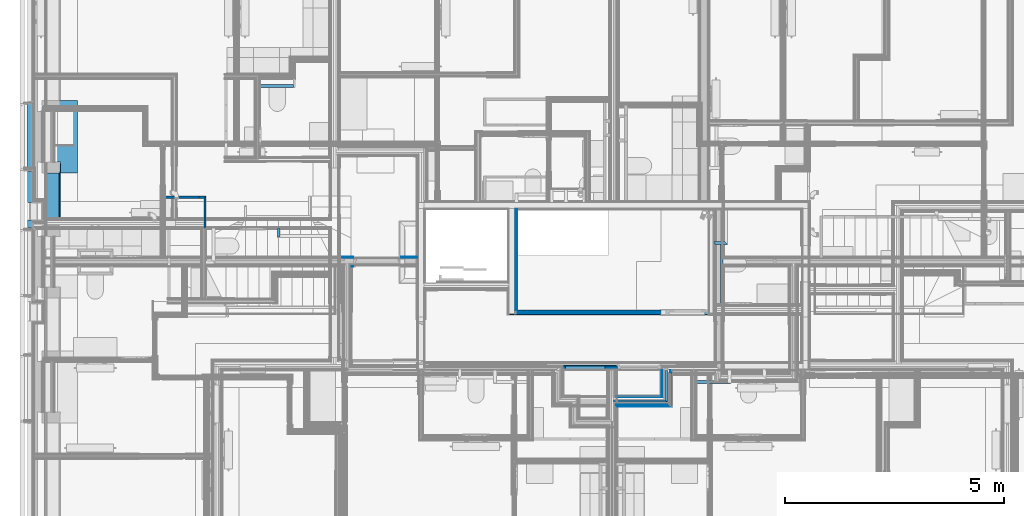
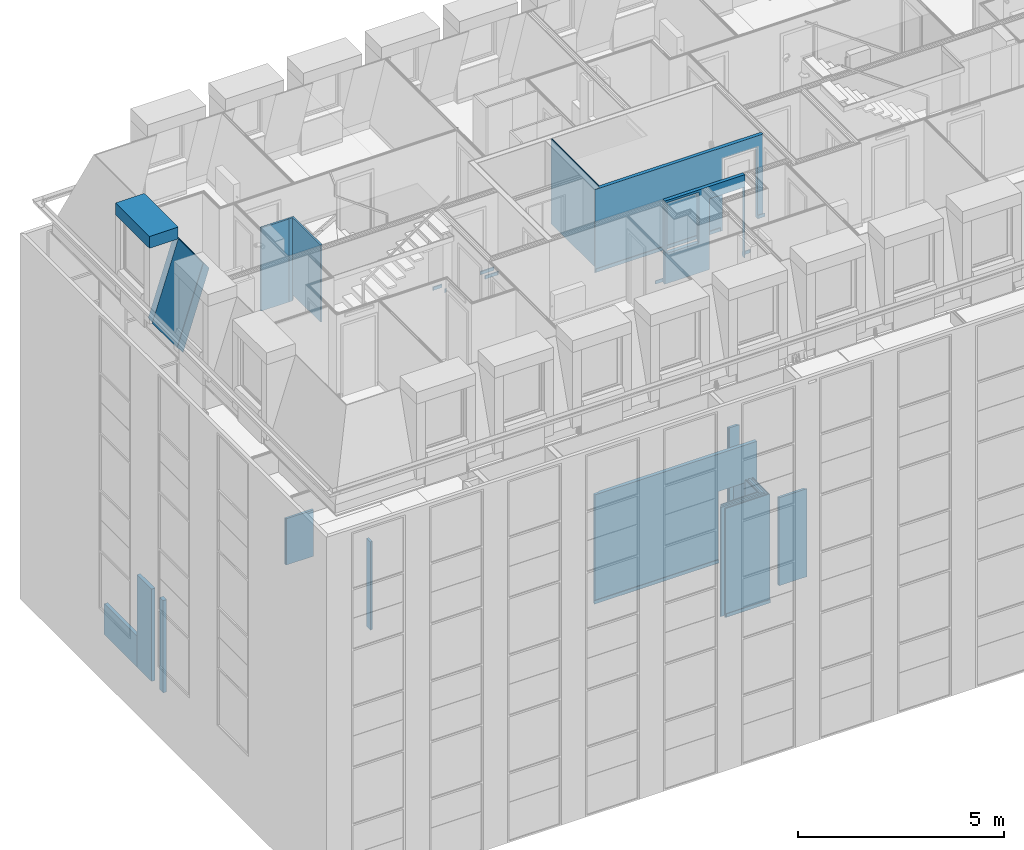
# One storey, part 3 of 169: 32 walls, 6 openings.
"""IFC2X3 building model written with IfcOpenShell, lengths in metres."""

from ifc_helpers import new_model, entity, si_unit, converted_unit, derived_unit, money_unit, direction, frame, frame_2d, origin_with_axes, place, context, subcontext, project, spatial, polyline, rectangle, outline, extrude, clip, bounded_halfspace, material, layer, layer_set, layer_usage, type_object, element, save


model = new_model("IFC2X3")

# Units and contexts
model_context = context("Model", 3, precision=1e-05, world=origin_with_axes(), true_north=direction((0.0, 1.0)))
body_context = subcontext(model_context, "Body", "Model", "MODEL_VIEW", scale=1.0)
ifc_project = project(units=[si_unit("LENGTHUNIT", "METRE"), si_unit("AREAUNIT", "SQUARE_METRE"), si_unit("VOLUMEUNIT", "CUBIC_METRE"), si_unit("ABSORBEDDOSEUNIT", "GRAY"), si_unit("AMOUNTOFSUBSTANCEUNIT", "MOLE"), si_unit("DOSEEQUIVALENTUNIT", "SIEVERT"), si_unit("ELECTRICCAPACITANCEUNIT", "FARAD"), si_unit("ELECTRICCHARGEUNIT", "COULOMB"), si_unit("ELECTRICCONDUCTANCEUNIT", "SIEMENS"), si_unit("ELECTRICCURRENTUNIT", "AMPERE"), si_unit("ELECTRICRESISTANCEUNIT", "OHM"), si_unit("ELECTRICVOLTAGEUNIT", "VOLT"), si_unit("ENERGYUNIT", "JOULE"), si_unit("FORCEUNIT", "NEWTON"), si_unit("FREQUENCYUNIT", "HERTZ"), si_unit("ILLUMINANCEUNIT", "LUX"), si_unit("INDUCTANCEUNIT", "HENRY"), si_unit("LUMINOUSFLUXUNIT", "LUMEN"), si_unit("LUMINOUSINTENSITYUNIT", "CANDELA"), si_unit("MAGNETICFLUXDENSITYUNIT", "TESLA"), si_unit("MAGNETICFLUXUNIT", "WEBER"), si_unit("MASSUNIT", "GRAM"), converted_unit("PLANEANGLEUNIT", "degree", entity("IfcReal", 0.0174532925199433), si_unit("PLANEANGLEUNIT", "RADIAN"), dimensions=[0, 0, 0, 0, 0, 0, 0]), si_unit("POWERUNIT", "WATT"), si_unit("PRESSUREUNIT", "PASCAL"), si_unit("RADIOACTIVITYUNIT", "BECQUEREL"), si_unit("SOLIDANGLEUNIT", "STERADIAN"), si_unit("THERMODYNAMICTEMPERATUREUNIT", "KELVIN"), si_unit("TIMEUNIT", "SECOND"), derived_unit("ACCELERATIONUNIT", [(si_unit("LENGTHUNIT", "METRE"), 1), (si_unit("TIMEUNIT", "SECOND"), -2)]), derived_unit("ANGULARVELOCITYUNIT", [(converted_unit("PLANEANGLEUNIT", "degree", entity("IfcReal", 0.0174532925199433), si_unit("PLANEANGLEUNIT", "RADIAN"), dimensions=[0, 0, 0, 0, 0, 0, 0]), 1), (si_unit("TIMEUNIT", "SECOND"), -1)]), derived_unit("CURVATUREUNIT", [(converted_unit("PLANEANGLEUNIT", "degree", entity("IfcReal", 0.0174532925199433), si_unit("PLANEANGLEUNIT", "RADIAN"), dimensions=[0, 0, 0, 0, 0, 0, 0]), 1), (si_unit("LENGTHUNIT", "METRE"), -1)]), derived_unit("DYNAMICVISCOSITYUNIT", [(si_unit("PRESSUREUNIT", "PASCAL"), 1), (si_unit("TIMEUNIT", "SECOND"), 1)]), derived_unit("HEATFLUXDENSITYUNIT", [(si_unit("POWERUNIT", "WATT"), 1), (si_unit("LENGTHUNIT", "METRE"), -2)]), derived_unit("HEATINGVALUEUNIT", [(si_unit("ENERGYUNIT", "JOULE"), 1), (si_unit("MASSUNIT", "GRAM"), -1)]), derived_unit("INTEGERCOUNTRATEUNIT", [(si_unit("TIMEUNIT", "SECOND"), -1)]), derived_unit("IONCONCENTRATIONUNIT", [(si_unit("MASSUNIT", "GRAM"), 1), (si_unit("VOLUMEUNIT", "CUBIC_METRE"), -1)]), derived_unit("ISOTHERMALMOISTURECAPACITYUNIT", [(si_unit("VOLUMEUNIT", "CUBIC_METRE"), 1), (si_unit("MASSUNIT", "GRAM"), -1)]), derived_unit("KINEMATICVISCOSITYUNIT", [(si_unit("AREAUNIT", "SQUARE_METRE"), 1), (si_unit("TIMEUNIT", "SECOND"), -1)]), derived_unit("LINEARFORCEUNIT", [(si_unit("FORCEUNIT", "NEWTON"), 1), (si_unit("LENGTHUNIT", "METRE"), -1)]), derived_unit("LINEARMOMENTUNIT", [(si_unit("FORCEUNIT", "NEWTON"), 1), (si_unit("LENGTHUNIT", "METRE"), -1)]), derived_unit("LINEARSTIFFNESSUNIT", [(si_unit("FORCEUNIT", "NEWTON"), 1), (si_unit("LENGTHUNIT", "METRE"), -1)]), derived_unit("LINEARVELOCITYUNIT", [(si_unit("LENGTHUNIT", "METRE"), 1), (si_unit("TIMEUNIT", "SECOND"), -1)]), derived_unit("LUMINOUSINTENSITYDISTRIBUTIONUNIT", [(si_unit("LUMINOUSINTENSITYUNIT", "CANDELA"), 1), (si_unit("LUMINOUSFLUXUNIT", "LUMEN"), -1)]), derived_unit("MASSDENSITYUNIT", [(si_unit("MASSUNIT", "GRAM"), 1), (si_unit("VOLUMEUNIT", "CUBIC_METRE"), -1)]), derived_unit("MASSFLOWRATEUNIT", [(si_unit("MASSUNIT", "GRAM"), 1), (si_unit("TIMEUNIT", "SECOND"), -1)]), derived_unit("MASSPERLENGTHUNIT", [(si_unit("MASSUNIT", "GRAM"), 1), (si_unit("LENGTHUNIT", "METRE"), -1)]), derived_unit("MODULUSOFELASTICITYUNIT", [(si_unit("FORCEUNIT", "NEWTON"), 1), (si_unit("AREAUNIT", "SQUARE_METRE"), -1)]), derived_unit("MODULUSOFLINEARSUBGRADEREACTIONUNIT", [(si_unit("FORCEUNIT", "NEWTON"), 1), (si_unit("LENGTHUNIT", "METRE"), -2)]), derived_unit("MODULUSOFROTATIONALSUBGRADEREACTIONUNIT", [(si_unit("FORCEUNIT", "NEWTON"), 1), (si_unit("LENGTHUNIT", "METRE"), 1)]), derived_unit("MODULUSOFSUBGRADEREACTIONUNIT", [(si_unit("FORCEUNIT", "NEWTON"), 1), (si_unit("VOLUMEUNIT", "CUBIC_METRE"), -1)]), derived_unit("MOISTUREDIFFUSIVITYUNIT", [(si_unit("VOLUMEUNIT", "CUBIC_METRE"), 1), (si_unit("TIMEUNIT", "SECOND"), -1)]), derived_unit("MOLECULARWEIGHTUNIT", [(si_unit("MASSUNIT", "GRAM"), 1), (si_unit("AMOUNTOFSUBSTANCEUNIT", "MOLE"), -1)]), derived_unit("PLANARFORCEUNIT", [(si_unit("FORCEUNIT", "NEWTON"), 1), (si_unit("LENGTHUNIT", "METRE"), -2)]), derived_unit("ROTATIONALFREQUENCYUNIT", [(si_unit("TIMEUNIT", "SECOND"), -1)]), derived_unit("ROTATIONALMASSUNIT", [(si_unit("MASSUNIT", "GRAM"), 1), (si_unit("LENGTHUNIT", "METRE"), 2)]), derived_unit("ROTATIONALSTIFFNESSUNIT", [(si_unit("FORCEUNIT", "NEWTON"), 1), (si_unit("LENGTHUNIT", "METRE"), 1), (converted_unit("PLANEANGLEUNIT", "degree", entity("IfcReal", 0.0174532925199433), si_unit("PLANEANGLEUNIT", "RADIAN"), dimensions=[0, 0, 0, 0, 0, 0, 0]), -1)]), derived_unit("SECTIONAREAINTEGRALUNIT", [(si_unit("LENGTHUNIT", "METRE"), 5)]), derived_unit("SECTIONMODULUSUNIT", [(si_unit("LENGTHUNIT", "METRE"), 3)]), derived_unit("SHEARMODULUSUNIT", [(si_unit("FORCEUNIT", "NEWTON"), 1), (si_unit("AREAUNIT", "SQUARE_METRE"), -1)]), derived_unit("SOUNDPOWERUNIT", [(si_unit("ENERGYUNIT", "JOULE"), 1), (si_unit("TIMEUNIT", "SECOND"), -1)]), derived_unit("SPECIFICHEATCAPACITYUNIT", [(si_unit("FORCEUNIT", "NEWTON"), 1), (si_unit("MASSUNIT", "GRAM"), -1), (si_unit("THERMODYNAMICTEMPERATUREUNIT", "KELVIN"), -1)]), derived_unit("TEMPERATUREGRADIENTUNIT", [(si_unit("THERMODYNAMICTEMPERATUREUNIT", "KELVIN"), 1), (si_unit("LENGTHUNIT", "METRE"), -1)]), derived_unit("THERMALADMITTANCEUNIT", [(si_unit("POWERUNIT", "WATT"), 1), (si_unit("AREAUNIT", "SQUARE_METRE"), -1), (si_unit("THERMODYNAMICTEMPERATUREUNIT", "KELVIN"), -1)]), derived_unit("THERMALCONDUCTANCEUNIT", [(si_unit("POWERUNIT", "WATT"), 1), (si_unit("LENGTHUNIT", "METRE"), -1), (si_unit("THERMODYNAMICTEMPERATUREUNIT", "KELVIN"), -1)]), derived_unit("THERMALEXPANSIONCOEFFICIENTUNIT", [(si_unit("THERMODYNAMICTEMPERATUREUNIT", "KELVIN"), -1)]), derived_unit("THERMALRESISTANCEUNIT", [(si_unit("AREAUNIT", "SQUARE_METRE"), 1), (si_unit("POWERUNIT", "WATT"), -1)]), derived_unit("THERMALTRANSMITTANCEUNIT", [(si_unit("POWERUNIT", "WATT"), 1), (si_unit("AREAUNIT", "SQUARE_METRE"), -1), (si_unit("THERMODYNAMICTEMPERATUREUNIT", "KELVIN"), -1)]), derived_unit("TORQUEUNIT", [(si_unit("FORCEUNIT", "NEWTON"), 1), (si_unit("LENGTHUNIT", "METRE"), 1)]), derived_unit("VAPORPERMEABILITYUNIT", [(si_unit("MASSUNIT", "GRAM"), 1), (si_unit("TIMEUNIT", "SECOND"), -1)]), derived_unit("VOLUMETRICFLOWRATEUNIT", [(si_unit("VOLUMEUNIT", "CUBIC_METRE"), 1), (si_unit("TIMEUNIT", "SECOND"), -1)]), derived_unit("WARPINGCONSTANTUNIT", [(si_unit("LENGTHUNIT", "METRE"), 6)]), derived_unit("WARPINGMOMENTUNIT", [(si_unit("FORCEUNIT", "NEWTON"), 1), (si_unit("LENGTHUNIT", "METRE"), 2)]), money_unit("GBP")], contexts=[model_context])

# Site, building, storey
site_placement = place(None, origin_with_axes())
site = spatial("IfcSite", under=ifc_project, at=site_placement, Name="Site", CompositionType="ELEMENT")
building_placement = place(site_placement, origin_with_axes())
building = spatial("IfcBuilding", under=site, at=building_placement, Name="Building01", CompositionType="ELEMENT")
storey_placement = place(building_placement, frame((0.0, 0.0, 5.15), z_axis=(0.0, 0.0, 1.0), x_axis=(1.0, 0.0, 0.0)))
storey = spatial("IfcBuildingStorey", under=building, at=storey_placement, Name="1F", CompositionType="ELEMENT", Elevation=5.15)

# Walls
ifc_material_1 = material(Name="A_BSUK_WallsExternal_Block")
ifc_layer_1 = layer(ifc_material_1, 0.1, ventilated=False)
ifc_layer_set_1 = layer_set([ifc_layer_1])
ifc_layer_usage_1 = layer_usage(ifc_layer_set_1, "AXIS2", "POSITIVE", 0.0)
wall_type_1 = type_object("IfcWallType", Name="A-Walls-ExternalBlock", PredefinedType="NOTDEFINED")
wall_1_placement = place(storey_placement, frame((0.17, 8.4, 0.0), z_axis=(0.0, 0.0, 1.0), x_axis=(0.0, -1.0, 0.0)))
element("IfcWallStandardCase", 1, at=wall_1_placement, inside=storey, type_object=wall_type_1, material=ifc_layer_usage_1, Name="A-Walls-ExternalBlock", ObjectType="A-Walls-ExternalBlock", context=body_context, shape_type="SweptSolid", body=[
    extrude(rectangle(XDim=0.167, YDim=0.1, at=frame_2d((0.0835, 0.05), x_axis=(-1.0, 0.0))), origin_with_axes(), (0.0, 0.0, 1.0), 2.74),
])
wall_2_placement = place(storey_placement, frame((0.17, 11.103, 0.0), z_axis=(0.0, 0.0, 1.0), x_axis=(0.0, -1.0, 0.0)))
element("IfcWallStandardCase", 2, at=wall_2_placement, inside=storey, type_object=wall_type_1, material=ifc_layer_usage_1, Name="A-Walls-ExternalBlock", ObjectType="A-Walls-ExternalBlock", context=body_context, shape_type="SweptSolid", body=[
    extrude(rectangle(XDim=1.58882, YDim=0.1, at=frame_2d((0.79441, 0.05), x_axis=(1.0, 0.0))), origin_with_axes(), (0.0, 0.0, 1.0), 0.915),
])
wall_3_placement = place(storey_placement, frame((0.17, 9.51418, 0.0), z_axis=(0.0, 0.0, 1.0), x_axis=(0.0, -1.0, 0.0)))
element("IfcWallStandardCase", 3, at=wall_3_placement, inside=storey, type_object=wall_type_1, material=ifc_layer_usage_1, Name="A-Walls-ExternalBlock", ObjectType="A-Walls-ExternalBlock", context=body_context, shape_type="SweptSolid", body=[
    extrude(rectangle(XDim=0.1, YDim=0.714171, at=frame_2d((0.357085, 0.05), x_axis=(0.0, -1.0))), origin_with_axes(), (0.0, 0.0, 1.0), 2.74),
])
ifc_material_2 = material(Name="A_BSUK_WallsInternal")
ifc_layer_2 = layer(ifc_material_2, 0.05, ventilated=False)
ifc_layer_set_2 = layer_set([ifc_layer_2])
ifc_layer_usage_2 = layer_usage(ifc_layer_set_2, "AXIS2", "POSITIVE", 0.0)
wall_type_2 = type_object("IfcWallType", Name="A-Walls-Internal", PredefinedType="NOTDEFINED")
wall_4_placement = place(storey_placement, frame((4.24, 7.549939, 10.01), z_axis=(0.0, 0.0, 1.0), x_axis=(0.0, 1.0, 0.0)))
element("IfcWallStandardCase", 4, at=wall_4_placement, inside=storey, type_object=wall_type_2, material=ifc_layer_usage_2, Name="A-Walls-Internal", ObjectType="A-Walls-Internal", context=body_context, shape_type="SweptSolid", body=[
    extrude(outline(polyline([(1.35, 0.05), (0.0, 0.05), (0.0, 0.0), (1.4, 0.0), (1.35, 0.05)])), origin_with_axes(), (0.0, 0.0, 1.0), 2.288),
])
wall_5_placement = place(storey_placement, frame((4.24, 8.949939, 9.83), z_axis=(0.0, 0.0, 1.0), x_axis=(-1.0, 0.0, 0.0)))
element("IfcWallStandardCase", 5, at=wall_5_placement, inside=storey, type_object=wall_type_2, material=ifc_layer_usage_2, Name="A-Walls-Internal", ObjectType="A-Walls-Internal", context=body_context, shape_type="SweptSolid", body=[
    extrude(outline(polyline([(0.05, 0.05), (0.0, 0.0), (0.155, 0.0), (0.155, 0.05), (0.05, 0.05)])), origin_with_axes(), (0.0, 0.0, 1.0), 2.468),
])
wall_6_placement = place(storey_placement, frame((4.085, 8.949939, 9.83), z_axis=(0.0, 0.0, 1.0), x_axis=(-1.0, 0.0, 0.0)))
element("IfcWallStandardCase", 6, at=wall_6_placement, inside=storey, type_object=wall_type_2, material=ifc_layer_usage_2, Name="A-Walls-Internal", ObjectType="A-Walls-Internal", context=body_context, shape_type="SweptSolid", body=[
    extrude(rectangle(XDim=0.785, YDim=0.05, at=frame_2d((0.3925, 0.025), x_axis=(1.0, 0.0))), origin_with_axes(), (0.0, 0.0, 1.0), 2.468),
])
ifc_layer_3 = layer(ifc_material_2, 0.015, ventilated=False)
ifc_layer_set_3 = layer_set([ifc_layer_3])
ifc_layer_usage_3 = layer_usage(ifc_layer_set_3, "AXIS2", "POSITIVE", 0.0)
for number, where, z_axis, x_axis, name in (
    (7, (11.3, 8.65, 9.78), (0.0, 0.0, 1.0), (0.0, -1.0, 0.0), "A-Walls-Internal"),
    (8, (11.315, 8.65, 9.78), (0.0, 0.0, 1.0), (0.0, -1.0, 0.0), "A-Walls-Internal"),
):
    element("IfcWallStandardCase", number, at=place(storey_placement, frame(where, z_axis=z_axis, x_axis=x_axis)), inside=storey, type_object=wall_type_2, material=ifc_layer_usage_3, Name=name, ObjectType="A-Walls-Internal", context=body_context, shape_type="SweptSolid", body=[
        extrude(rectangle(XDim=2.3, YDim=0.015, at=frame_2d((1.15, 0.0075), x_axis=(-1.0, 0.0))), origin_with_axes(), (0.0, 0.0, 1.0), 2.518),
    ])
ifc_material_3 = material(Name="A_BSUK_Walls_Timber")
ifc_layer_4 = layer(ifc_material_3, 0.015, ventilated=False)
ifc_material_4 = material(Name="A_BSUK_OpeningsClearance")
ifc_layer_5 = layer(ifc_material_4, 0.05, ventilated=False)
ifc_layer_set_4 = layer_set([ifc_layer_4, ifc_layer_5])
ifc_layer_usage_4 = layer_usage(ifc_layer_set_4, "AXIS2", "POSITIVE", 0.0)
wall_type_3 = type_object("IfcWallType", Name="SHE_A-Walls_Type05c_PreWallShell_65mm", PredefinedType="NOTDEFINED")
wall_7_placement = place(storey_placement, frame((15.815, 7.915, 0.0), z_axis=(0.0, 0.0, 1.0), x_axis=(1.0, 0.0, 0.0)))
element("IfcWallStandardCase", 9, at=wall_7_placement, inside=storey, type_object=wall_type_3, material=ifc_layer_usage_4, Name="5C", ObjectType="SHE_A-Walls_Type05c_PreWallShell_65mm", context=body_context, shape_type="SweptSolid", body=[
    extrude(outline(polyline([(0.25, 0.0), (0.0, 0.0), (0.0, -0.05), (0.03, -0.05), (0.03, -0.065), (0.315, -0.065), (0.25, 0.0)])), origin_with_axes(), (0.0, 0.0, 1.0), 2.615),
])
wall_8_placement = place(storey_placement, frame((15.965, 6.59, 0.0), z_axis=(0.0, 0.0, 1.0), x_axis=(0.0, 1.0, 0.0)))
element("IfcWallStandardCase", 10, at=wall_8_placement, inside=storey, type_object=wall_type_3, material=ifc_layer_usage_4, Name="5C", ObjectType="SHE_A-Walls_Type05c_PreWallShell_65mm", context=body_context, shape_type="SweptSolid", body=[
    extrude(outline(polyline([(1.275, -0.05), (1.275, 0.0), (-0.103, 0.0), (-0.103, -0.05), (-0.115, -0.05), (-0.115, -0.065), (1.325, -0.065), (1.325, -0.05), (1.275, -0.05)])), origin_with_axes(), (0.0, 0.0, 1.0), 1.375),
])
wall_9_placement = place(storey_placement, frame((5.464669, 11.495672, 0.0), z_axis=(0.0, 0.0, 1.0), x_axis=(1.0, 0.0, 0.0)))
element("IfcWallStandardCase", 11, at=wall_9_placement, inside=storey, type_object=wall_type_3, material=ifc_layer_usage_4, Name="5C", ObjectType="SHE_A-Walls_Type05c_PreWallShell_65mm", context=body_context, shape_type="SweptSolid", body=[
    extrude(outline(polyline([(0.775, 0.0), (0.0, 0.0), (0.0, -0.05), (0.015, -0.05), (0.015, -0.065), (0.775, -0.065), (0.775, 0.0)])), origin_with_axes(), (0.0, 0.0, 1.0), 1.375),
])
wall_10_placement = place(storey_placement, frame((15.4075, 4.745, 0.0), z_axis=(0.0, 0.0, 1.0), x_axis=(1.0, 0.0, 0.0)))
element("IfcWallStandardCase", 12, at=wall_10_placement, inside=storey, type_object=wall_type_3, material=ifc_layer_usage_4, Name="5C", ObjectType="SHE_A-Walls_Type05c_PreWallShell_65mm", context=body_context, shape_type="SweptSolid", body=[
    extrude(outline(polyline([(0.735, -0.05), (0.735, 0.0), (0.0, 0.0), (0.0, -0.065), (0.785, -0.065), (0.785, -0.05), (0.735, -0.05)])), origin_with_axes(), (0.0, 0.0, 1.0), 2.615),
])
ifc_layer_set_5 = layer_set([ifc_layer_5, ifc_layer_4])
ifc_layer_usage_5 = layer_usage(ifc_layer_set_5, "AXIS2", "POSITIVE", 0.0)
wall_11_placement = place(storey_placement, frame((5.929669, 8.21067, 0.0), z_axis=(0.0, 0.0, 1.0), x_axis=(0.0, 1.0, 0.0)))
element("IfcWallStandardCase", 13, at=wall_11_placement, inside=storey, type_object=wall_type_3, material=ifc_layer_usage_5, Name="5C", ObjectType="SHE_A-Walls_Type05c_PreWallShell_65mm", context=body_context, shape_type="SweptSolid", body=[
    extrude(outline(polyline([(0.0, 0.0), (0.0, 0.065), (-0.2, 0.065), (-0.2, 0.05), (-0.185, 0.05), (-0.185, 0.0), (0.0, 0.0)])), origin_with_axes(), (0.0, 0.0, 1.0), 2.615),
])
ifc_material_5 = material(Name="A_BSUK_WallInternal_Finishes_Plasterboard")
ifc_layer_6 = layer(ifc_material_5, 0.015, ventilated=False)
ifc_layer_set_6 = layer_set([ifc_layer_6])
ifc_layer_usage_6 = layer_usage(ifc_layer_set_6, "AXIS2", "POSITIVE", 0.0)
wall_type_4 = type_object("IfcWallType", Name="default", PredefinedType="NOTDEFINED")
wall_12_placement = place(storey_placement, frame((14.625, 4.389428, 0.0), z_axis=(0.0, 0.0, 1.0), x_axis=(-1.0, 0.0, 0.0)))
element("IfcWallStandardCase", 14, at=wall_12_placement, inside=storey, type_object=wall_type_4, material=ifc_layer_usage_6, Name="default", ObjectType="default", context=body_context, shape_type="SweptSolid", body=[
    extrude(outline(polyline([(1.0275, 0.015), (-0.015, 0.015), (0.0, 0.0), (1.0275, 0.0), (1.0275, 0.015)])), origin_with_axes(), (0.0, 0.0, 1.0), 3.24),
])
wall_13_placement = place(storey_placement, frame((14.64, 4.374428, 0.0), z_axis=(0.0, 0.0, 1.0), x_axis=(-1.0, 0.0, 0.0)))
element("IfcWallStandardCase", 15, at=wall_13_placement, inside=storey, type_object=wall_type_4, material=ifc_layer_usage_6, Name="default", ObjectType="default", context=body_context, shape_type="SweptSolid", body=[
    extrude(outline(polyline([(1.0425, 0.015), (-0.015, 0.015), (0.0, 0.0), (1.0425, 0.0), (1.0425, 0.015)])), origin_with_axes(), (0.0, 0.0, 1.0), 3.24),
])
ifc_material_6 = material(Name="A_BSUK_Insulation")
ifc_layer_7 = layer(ifc_material_6, 0.05, ventilated=False)
ifc_layer_set_7 = layer_set([ifc_layer_7])
ifc_layer_usage_7 = layer_usage(ifc_layer_set_7, "AXIS2", "POSITIVE", 0.0)
wall_14_placement = place(storey_placement, frame((14.712, 4.302428, 0.0), z_axis=(0.0, 0.0, 1.0), x_axis=(-1.0, 0.0, 0.0)))
element("IfcWallStandardCase", 16, at=wall_14_placement, inside=storey, type_object=wall_type_4, material=ifc_layer_usage_7, Name="default", ObjectType="default", context=body_context, shape_type="SweptSolid", body=[
    extrude(outline(polyline([(1.1865, 0.05), (-0.05, 0.05), (0.0, 0.0), (1.1865, 0.0), (1.1865, 0.05)])), origin_with_axes(), (0.0, 0.0, 1.0), 3.24),
])
for number, where, z_axis, x_axis, name in (
    (17, (14.82, 4.194428, 0.0), (0.0, 0.0, 1.0), (-1.0, 0.0, 0.0), "default"),
    (18, (14.835, 4.179428, 0.0), (0.0, 0.0, 1.0), (-1.0, 0.0, 0.0), "default"),
):
    element("IfcWallStandardCase", number, at=place(storey_placement, frame(where, z_axis=z_axis, x_axis=x_axis)), inside=storey, type_object=wall_type_4, material=ifc_layer_usage_6, Name=name, ObjectType="default", context=body_context, shape_type="SweptSolid", body=[
        extrude(outline(polyline([(1.2225, 0.015), (-0.015, 0.015), (0.0, 0.0), (1.2225, 0.0), (1.2225, 0.015)])), origin_with_axes(), (0.0, 0.0, 1.0), 3.24),
    ])
ifc_layer_set_8 = layer_set([ifc_layer_4])
ifc_layer_usage_8 = layer_usage(ifc_layer_set_8, "AXIS2", "POSITIVE", 0.0)
wall_15_placement = place(storey_placement, frame((14.865, 4.164428, 0.015), z_axis=(0.0, 0.0, 1.0), x_axis=(-1.0, 0.0, 0.0)))
element("IfcWallStandardCase", 19, at=wall_15_placement, inside=storey, type_object=wall_type_4, material=ifc_layer_usage_8, Name="default", ObjectType="default", context=body_context, shape_type="SweptSolid", body=[
    extrude(rectangle(XDim=1.2375, YDim=0.015, at=frame_2d((0.61875, 0.0075), x_axis=(-1.0, 0.0))), origin_with_axes(), (0.0, 0.0, 1.0), 0.1),
])
wall_16_placement = place(storey_placement, frame((14.625, 4.98, 0.0), z_axis=(0.0, 0.0, 1.0), x_axis=(0.0, -1.0, 0.0)))
element("IfcWallStandardCase", 20, at=wall_16_placement, inside=storey, type_object=wall_type_4, material=ifc_layer_usage_6, Name="default", ObjectType="default", context=body_context, shape_type="SweptSolid", body=[
    extrude(outline(polyline([(0.605572, 0.015), (0.0, 0.015), (0.0, 0.0), (0.590572, 0.0), (0.605572, 0.015)])), origin_with_axes(), (0.0, 0.0, 1.0), 3.24),
])
wall_17_placement = place(storey_placement, frame((14.64, 4.98, 0.0), z_axis=(0.0, 0.0, 1.0), x_axis=(0.0, -1.0, 0.0)))
element("IfcWallStandardCase", 21, at=wall_17_placement, inside=storey, type_object=wall_type_4, material=ifc_layer_usage_6, Name="default", ObjectType="default", context=body_context, shape_type="SweptSolid", body=[
    extrude(outline(polyline([(0.620572, 0.015), (0.0, 0.015), (0.0, 0.0), (0.605572, 0.0), (0.620572, 0.015)])), origin_with_axes(), (0.0, 0.0, 1.0), 3.24),
])
wall_18_placement = place(storey_placement, frame((14.712, 4.98, 0.0), z_axis=(0.0, 0.0, 1.0), x_axis=(0.0, -1.0, 0.0)))
element("IfcWallStandardCase", 22, at=wall_18_placement, inside=storey, type_object=wall_type_4, material=ifc_layer_usage_7, Name="default", ObjectType="default", context=body_context, shape_type="SweptSolid", body=[
    extrude(outline(polyline([(0.727572, 0.05), (0.0, 0.05), (0.0, 0.0), (0.677572, 0.0), (0.727572, 0.05)])), origin_with_axes(), (0.0, 0.0, 1.0), 3.24),
])
wall_19_placement = place(storey_placement, frame((14.82, 4.98, 0.0), z_axis=(0.0, 0.0, 1.0), x_axis=(0.0, -1.0, 0.0)))
element("IfcWallStandardCase", 23, at=wall_19_placement, inside=storey, type_object=wall_type_4, material=ifc_layer_usage_6, Name="default", ObjectType="default", context=body_context, shape_type="SweptSolid", body=[
    extrude(outline(polyline([(0.800572, 0.015), (0.0, 0.015), (0.0, 0.0), (0.785572, 0.0), (0.800572, 0.015)])), origin_with_axes(), (0.0, 0.0, 1.0), 3.24),
])
wall_20_placement = place(storey_placement, frame((14.835, 4.98, 0.0), z_axis=(0.0, 0.0, 1.0), x_axis=(0.0, -1.0, 0.0)))
element("IfcWallStandardCase", 24, at=wall_20_placement, inside=storey, type_object=wall_type_4, material=ifc_layer_usage_6, Name="default", ObjectType="default", context=body_context, shape_type="SweptSolid", body=[
    extrude(outline(polyline([(0.815572, 0.015), (0.0, 0.015), (0.0, 0.0), (0.800572, 0.0), (0.815572, 0.015)])), origin_with_axes(), (0.0, 0.0, 1.0), 3.24),
])

# Wall, opening
wall_21_placement = place(storey_placement, frame((9.045, 7.564939, 9.845), z_axis=(0.0, 0.0, 1.0), x_axis=(-1.0, 0.0, 0.0)))
wall_21 = element("IfcWallStandardCase", 25, at=wall_21_placement, inside=storey, type_object=wall_type_4, material=ifc_layer_usage_8, Name="default", ObjectType="default", context=body_context, shape_type="SweptSolid", body=[
    extrude(outline(polyline([(1.685, 0.015), (-0.015, 0.015), (0.0, 0.0), (1.7, 0.0), (1.685, 0.015)])), origin_with_axes(), (0.0, 0.0, 1.0), 0.1),
])
opening_1_placement = place(wall_21_placement, frame((0.359, 0.0, -0.015), z_axis=(0.0, 0.0, 1.0), x_axis=(1.0, 0.0, 0.0)))
element("IfcOpeningElement", 26, at=opening_1_placement, cuts=wall_21, Name="Opening", ObjectType="Opening", context=body_context, shape_type="SweptSolid", body=[
    extrude(rectangle(XDim=2.142, YDim=1.084, at=frame_2d((-0.542, 1.071), x_axis=(0.0, -1.0))), frame((0.0, 0.0, 0.0), z_axis=(0.0, 1.0, 0.0), x_axis=(-1.0, 0.0, 0.0)), (0.0, 0.0, 1.0), 0.015),
])

wall_22_placement = place(storey_placement, frame((9.06, 7.349939, 9.845), z_axis=(0.0, 0.0, 1.0), x_axis=(-1.0, 0.0, 0.0)))
wall_22 = element("IfcWallStandardCase", 27, at=wall_22_placement, inside=storey, type_object=wall_type_4, material=ifc_layer_usage_8, Name="default", ObjectType="default", context=body_context, shape_type="SweptSolid", body=[
    extrude(outline(polyline([(1.5, 0.015), (0.015, 0.015), (0.0, 0.0), (1.5, 0.0), (1.5, 0.015)])), origin_with_axes(), (0.0, 0.0, 1.0), 0.1),
])
opening_2_placement = place(wall_22_placement, frame((0.374, 0.0, -0.015), z_axis=(0.0, 0.0, 1.0), x_axis=(1.0, 0.0, 0.0)))
element("IfcOpeningElement", 28, at=opening_2_placement, cuts=wall_22, Name="Opening", ObjectType="Opening", context=body_context, shape_type="SweptSolid", body=[
    extrude(rectangle(XDim=2.142, YDim=1.084, at=frame_2d((-0.542, 1.071), x_axis=(0.0, -1.0))), frame((0.0, 0.0, 0.0), z_axis=(0.0, 1.0, 0.0), x_axis=(-1.0, 0.0, 0.0)), (0.0, 0.0, 1.0), 0.015),
])

ifc_layer_8 = layer(ifc_material_5, 0.013, ventilated=False)
ifc_layer_9 = layer(ifc_material_5, 0.012, ventilated=False)
ifc_material_7 = material(Name="Air Cavity")
ifc_layer_10 = layer(ifc_material_7, 0.05, ventilated=False)
ifc_layer_set_9 = layer_set([ifc_layer_4, ifc_layer_8, ifc_layer_9, ifc_layer_10, ifc_layer_9, ifc_layer_8])
ifc_layer_usage_9 = layer_usage(ifc_layer_set_9, "AXIS2", "POSITIVE", 0.0)
wall_type_5 = type_object("IfcWallType", Name="SHE_A-Walls_Type03c_Firewall_F120_100mm", PredefinedType="NOTDEFINED")
wall_23_placement = place(storey_placement, frame((11.115, 6.25, 0.015), z_axis=(0.0, 0.0, 1.0), x_axis=(1.0, 0.0, 0.0)))
wall_23 = element("IfcWallStandardCase", 29, at=wall_23_placement, inside=storey, type_object=wall_type_5, material=ifc_layer_usage_9, Name="3C", ObjectType="SHE_A-Walls_Type03c_Firewall_F120_100mm", context=body_context, shape_type="Clipping", body=[
    clip(clip(extrude(outline(polyline([(4.585, 0.0), (4.585, 0.1), (0.185, 0.1), (0.185, 0.075), (0.03, 0.075), (0.03, 0.0), (0.0, 0.0), (0.0, -0.015), (4.57, -0.015), (4.585, 0.0)])), frame((0.0, 0.0, -0.015), z_axis=(0.0, 0.0, 1.0), x_axis=(1.0, 0.0, 0.0)), (0.0, 0.0, 1.0), 3.24), bounded_halfspace(frame((0.0, 0.0, 0.1), z_axis=(0.0, 0.0, 1.0), x_axis=(1.0, 0.0, 0.0)), False, frame((0.0, 0.0, 0.1), z_axis=(0.0, 0.0, 1.0), x_axis=(1.0, 0.0, 0.0)), polyline([(4.585, 0.0), (0.0, 0.0), (0.0, -0.015), (4.57, -0.015), (4.585, 0.0)]))), bounded_halfspace(frame((0.0, 0.0, 0.0), z_axis=(0.0, 0.0, -1.0), x_axis=(-1.0, 0.0, 0.0)), False, frame((0.0, 0.0, 0.0), z_axis=(0.0, 0.0, -1.0), x_axis=(-1.0, 0.0, 0.0)), polyline([(-4.57, -0.015), (0.0, -0.015), (0.0, 0.0), (-4.585, 0.0), (-4.57, -0.015)]))),
])
opening_3_placement = place(wall_23_placement, frame((3.501, -0.015, -0.03), z_axis=(0.0, 0.0, 1.0), x_axis=(1.0, 0.0, 0.0)))
element("IfcOpeningElement", 30, at=opening_3_placement, cuts=wall_23, Name="Opening", ObjectType="Opening", context=body_context, shape_type="SweptSolid", body=[
    extrude(rectangle(XDim=2.142, YDim=0.984, at=frame_2d((-0.492, 1.071), x_axis=(0.0, 1.0))), frame((0.0, 0.0, 0.0), z_axis=(0.0, 1.0, 0.0), x_axis=(-1.0, 0.0, 0.0)), (0.0, 0.0, 1.0), 0.115),
])

wall_24_placement = place(storey_placement, frame((11.16, 6.25, 9.845), z_axis=(0.0, 0.0, 1.0), x_axis=(1.0, 0.0, 0.0)))
wall_24 = element("IfcWallStandardCase", 31, at=wall_24_placement, inside=storey, type_object=wall_type_5, material=ifc_layer_usage_9, Name="3C", ObjectType="SHE_A-Walls_Type03c_Firewall_F120_100mm", context=body_context, shape_type="Clipping", body=[
    clip(clip(extrude(outline(polyline([(4.67844, 0.0), (4.67844, 0.013), (4.70844, 0.013), (4.70844, 0.075), (4.69344, 0.087), (4.69344, 0.1), (0.14, 0.1), (0.14, 0.013), (-0.015, 0.013), (-0.015, 0.0), (0.0, 0.0), (0.0, -0.015), (4.75344, -0.015), (4.75344, 0.0), (4.67844, 0.0)])), frame((0.0, 0.0, -0.015), z_axis=(0.0, 0.0, 1.0), x_axis=(1.0, 0.0, 0.0)), (0.0, 0.0, 1.0), 2.468), bounded_halfspace(frame((0.0, 0.0, 0.1), z_axis=(0.0, 0.0, 1.0), x_axis=(1.0, 0.0, 0.0)), False, frame((0.0, 0.0, 0.1), z_axis=(0.0, 0.0, 1.0), x_axis=(1.0, 0.0, 0.0)), polyline([(4.75344, 0.0), (0.0, 0.0), (0.0, -0.015), (4.75344, -0.015), (4.75344, 0.0)]))), bounded_halfspace(frame((0.0, 0.0, 0.0), z_axis=(0.0, 0.0, -1.0), x_axis=(-1.0, 0.0, 0.0)), False, frame((0.0, 0.0, 0.0), z_axis=(0.0, 0.0, -1.0), x_axis=(-1.0, 0.0, 0.0)), polyline([(-4.75344, -0.015), (0.0, -0.015), (0.0, 0.0), (-4.75344, 0.0), (-4.75344, -0.015)]))),
])
opening_4_placement = place(wall_24_placement, frame((3.56744, -0.015, -0.03), z_axis=(0.0, 0.0, 1.0), x_axis=(1.0, 0.0, 0.0)))
element("IfcOpeningElement", 32, at=opening_4_placement, cuts=wall_24, Name="Opening", ObjectType="Opening", context=body_context, shape_type="SweptSolid", body=[
    extrude(outline(polyline([(0.0, 0.0), (0.0, 2.157), (-0.984, 2.157), (-0.984, 0.015), (-0.91756, 0.015), (-0.91756, 0.0), (0.0, 0.0)])), frame((0.0, 0.0, 0.0), z_axis=(0.0, 1.0, 0.0), x_axis=(-1.0, 0.0, 0.0)), (0.0, 0.0, 1.0), 0.115),
    extrude(rectangle(XDim=0.984, YDim=2.157, at=frame_2d((-0.492, 1.0785), x_axis=(1.0, 0.0))), frame((0.0, 0.015, 0.0), z_axis=(0.0, 1.0, 0.0), x_axis=(-1.0, 0.0, 0.0)), (0.0, 0.0, 1.0), 0.013),
    extrude(outline(polyline([(0.0, 2.142), (0.0, 2.157), (-0.984, 2.157), (-0.984, 0.015), (-0.91756, 0.015), (-0.91756, 0.0), (0.06644, 0.0), (0.06644, 2.142), (0.0, 2.142)])), frame((0.0, 0.0, 0.0), z_axis=(0.0, 1.0, 0.0), x_axis=(-1.0, 0.0, 0.0)), (0.0, 0.0, 1.0), 0.015),
    extrude(rectangle(XDim=0.984, YDim=2.157, at=frame_2d((-0.492, 1.0785), x_axis=(1.0, 0.0))), frame((0.0, 0.028, 0.0), z_axis=(0.0, 1.0, 0.0), x_axis=(-1.0, 0.0, 0.0)), (0.0, 0.0, 1.0), 0.012),
    extrude(rectangle(XDim=0.984, YDim=2.157, at=frame_2d((-0.492, 1.0785), x_axis=(1.0, 0.0))), frame((0.0, 0.04, 0.0), z_axis=(0.0, 1.0, 0.0), x_axis=(-1.0, 0.0, 0.0)), (0.0, 0.0, 1.0), 0.05),
    extrude(rectangle(XDim=0.984, YDim=2.157, at=frame_2d((-0.492, 1.0785), x_axis=(1.0, 0.0))), frame((0.0, 0.09, 0.0), z_axis=(0.0, 1.0, 0.0), x_axis=(-1.0, 0.0, 0.0)), (0.0, 0.0, 1.0), 0.012),
    extrude(rectangle(XDim=0.984, YDim=2.157, at=frame_2d((-0.492, 1.0785), x_axis=(1.0, 0.0))), frame((0.0, 0.102, 0.0), z_axis=(0.0, 1.0, 0.0), x_axis=(-1.0, 0.0, 0.0)), (0.0, 0.0, 1.0), 0.013),
])

# Wall, openings
ifc_layer_set_10 = layer_set([ifc_layer_8, ifc_layer_9, ifc_layer_10, ifc_layer_9, ifc_layer_8, ifc_layer_4])
ifc_layer_usage_10 = layer_usage(ifc_layer_set_10, "AXIS2", "POSITIVE", 0.0)
wall_25_placement = place(storey_placement, frame((12.175, 5.08, 9.845), z_axis=(0.0, 0.0, 1.0), x_axis=(1.0, 0.0, 0.0)))
wall_25 = element("IfcWallStandardCase", 33, at=wall_25_placement, inside=storey, type_object=wall_type_5, material=ifc_layer_usage_10, Name="3C", ObjectType="SHE_A-Walls_Type03c_Firewall_F120_100mm", context=body_context, shape_type="Clipping", body=[
    clip(clip(extrude(outline(polyline([(2.45, 0.0), (2.65, 0.0), (2.665, 0.015), (-0.015, 0.015), (0.0, 0.0), (0.2, 0.0), (0.2, -0.1), (2.45, -0.1), (2.45, 0.0)])), frame((0.0, 0.0, -0.015), z_axis=(0.0, 0.0, 1.0), x_axis=(1.0, 0.0, 0.0)), (0.0, 0.0, 1.0), 2.468), bounded_halfspace(frame((0.0, 0.0, 0.1), z_axis=(0.0, 0.0, 1.0), x_axis=(1.0, 0.0, 0.0)), False, frame((0.0, 0.0, 0.1), z_axis=(0.0, 0.0, 1.0), x_axis=(1.0, 0.0, 0.0)), polyline([(2.665, 0.015), (-0.015, 0.015), (0.0, 0.0), (2.65, 0.0), (2.665, 0.015)]))), bounded_halfspace(frame((0.0, 0.0, 0.0), z_axis=(0.0, 0.0, -1.0), x_axis=(-1.0, 0.0, 0.0)), False, frame((0.0, 0.0, 0.0), z_axis=(0.0, 0.0, -1.0), x_axis=(-1.0, 0.0, 0.0)), polyline([(-2.65, 0.0), (0.0, 0.0), (0.015, 0.015), (-2.665, 0.015), (-2.65, 0.0)]))),
])
opening_5_placement = place(wall_25_placement, frame((1.45, -0.1, -0.045), z_axis=(0.0, 0.0, 1.0), x_axis=(1.0, 0.0, 0.0)))
element("IfcOpeningElement", 34, at=opening_5_placement, cuts=wall_25, Name="Opening", ObjectType="Opening", context=body_context, shape_type="SweptSolid", body=[
    extrude(rectangle(XDim=0.984, YDim=2.13, at=frame_2d((-0.492, 1.065), x_axis=(1.0, 0.0))), frame((0.0, 0.0, 0.0), z_axis=(0.0, 1.0, 0.0), x_axis=(-1.0, 0.0, 0.0)), (0.0, 0.0, 1.0), 0.115),
])
opening_6_placement = place(wall_25_placement, frame((0.258, -0.1, 0.885), z_axis=(0.0, 0.0, 1.0), x_axis=(1.0, 0.0, 0.0)))
element("IfcOpeningElement", 35, at=opening_6_placement, cuts=wall_25, Name="Opening", ObjectType="Recess", context=body_context, shape_type="SweptSolid", body=[
    extrude(rectangle(XDim=1.5, YDim=0.9, at=frame_2d((-0.45, 0.75), x_axis=(0.0, 1.0))), frame((0.0, 0.0, 0.0), z_axis=(0.0, 1.0, 0.0), x_axis=(-1.0, 0.0, 0.0)), (0.0, 0.0, 1.0), 0.1),
])

# Walls
ifc_material_8 = material(Name="A_BSUK_Roofs")
wall_type_6 = type_object("IfcWallType", Name="A-Walls-ExternalBlock", PredefinedType="NOTDEFINED")
wall_26_placement = place(storey_placement, frame((1.309904, 11.124915, 12.679999), z_axis=(0.0, -1.0, 0.0), x_axis=(-1.0, 0.0, 0.0)))
element("IfcWall", 36, at=wall_26_placement, inside=storey, type_object=wall_type_6, material=ifc_material_8, Name="7C", ObjectType="A-Walls-ExternalBlock", context=body_context, shape_type="SweptSolid", body=[
    extrude(rectangle(XDim=0.81, YDim=0.35, at=frame_2d((0.405, 0.175), x_axis=(1.0, 0.0))), origin_with_axes(), (0.0, 0.0, 1.0), 1.65),
])
wall_type_7 = type_object("IfcWallType", Name="A-Walls-Internal", PredefinedType="NOTDEFINED")
wall_27_placement = place(storey_placement, frame((0.5788, 9.474964, 10.08), z_axis=(0.30901699, 0.0, 0.95105652), x_axis=(0.0, -1.0, 0.0)))
element("IfcWall", 37, at=wall_27_placement, inside=storey, type_object=wall_type_7, material=ifc_material_2, Name="7C", ObjectType="A-Walls-Internal", context=body_context, shape_type="SweptSolid", body=[
    extrude(rectangle(XDim=1.200049, YDim=0.015, at=frame_2d((0.600024, 0.0075), x_axis=(-1.0, 0.0))), origin_with_axes(), (0.0, 0.0, 1.0), 2.373987),
])
wall_28_placement = place(storey_placement, frame((0.594428, 9.474964, 10.079557), z_axis=(0.30901699, 0.0, 0.95105652), x_axis=(0.0, -1.0, 0.0)))
element("IfcWall", 38, at=wall_28_placement, inside=storey, type_object=wall_type_7, material=ifc_material_2, Name="7C", ObjectType="A-Walls-Internal", context=body_context, shape_type="SweptSolid", body=[
    extrude(outline(polyline([(1.450049, 0.015), (-0.25, 0.015), (0.0, 0.0), (1.200049, 0.0), (1.450049, 0.015)])), origin_with_axes(), (0.0, 0.0, 1.0), 2.373987),
])

save(model, "model.ifc")
